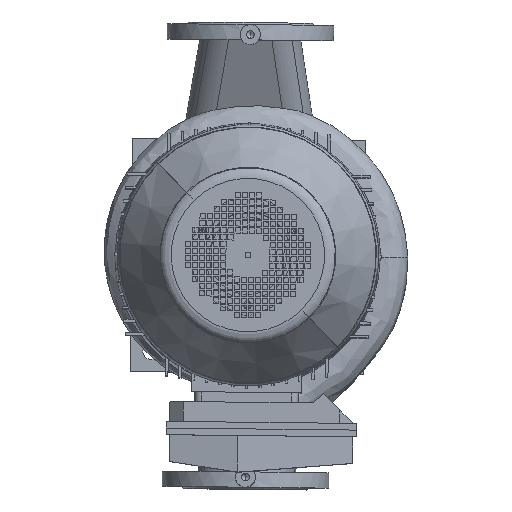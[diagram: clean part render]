
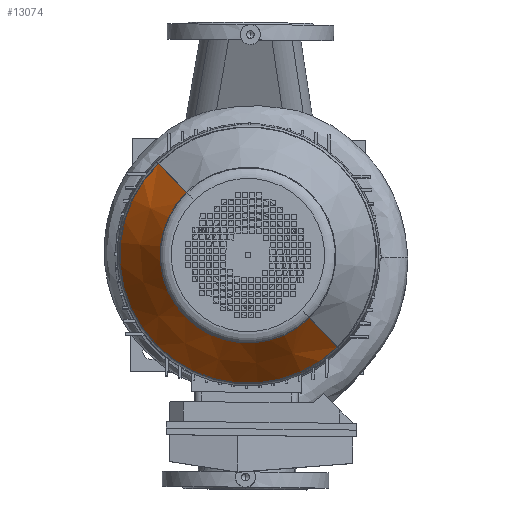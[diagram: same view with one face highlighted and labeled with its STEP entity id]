
A CAD part, top view. The second image highlights one B-rep face of the part: STEP entity #13074.
In plain terms, the highlighted conical face has half-angle 32.471 degrees and reference radius 126 mm.
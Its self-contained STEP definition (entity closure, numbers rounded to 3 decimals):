
#13074=ADVANCED_FACE('',(#29089),#29090,.T.);
#13098=EDGE_CURVE('',#29126,#29125,#29133,.T.);
#13102=EDGE_CURVE('',#29122,#29121,#29139,.T.);
#29089=FACE_OUTER_BOUND('',#52427,.T.);
#29090=CONICAL_SURFACE('',#52428,126.0,0.567);
#29121=VERTEX_POINT('',#52464);
#29122=VERTEX_POINT('',#52465);
#29125=VERTEX_POINT('',#52469);
#29126=VERTEX_POINT('',#52470);
#29133=CIRCLE('',#52479,131.894);
#29139=CIRCLE('',#52487,192.873);
#52427=EDGE_LOOP('',(#85748,#85749,#85750,#85751));
#52428=AXIS2_PLACEMENT_3D('',#85752,#85753,#85754);
#52464=CARTESIAN_POINT('',(192.873,0.,114.913));
#52465=CARTESIAN_POINT('',(-192.873,0.,114.913));
#52469=CARTESIAN_POINT('',(-131.894,0.,210.738));
#52470=CARTESIAN_POINT('',(131.894,0.,210.738));
#52479=AXIS2_PLACEMENT_3D('',#85808,#85809,#85810);
#52487=AXIS2_PLACEMENT_3D('',#85814,#85815,#85816);
#85748=ORIENTED_EDGE('',*,*,#93342,.T.);
#85749=ORIENTED_EDGE('',*,*,#13098,.F.);
#85750=ORIENTED_EDGE('',*,*,#93343,.T.);
#85751=ORIENTED_EDGE('',*,*,#13102,.F.);
#85752=CARTESIAN_POINT('',(0.0,0.0,220.0));
#85753=DIRECTION('',(-0.0,-0.0,-1.0));
#85754=DIRECTION('',(-1.0,0.,0.0));
#85808=CARTESIAN_POINT('',(0.0,0.0,210.738));
#85809=DIRECTION('',(0.0,0.0,1.0));
#85810=DIRECTION('',(1.0,0.,0.0));
#85814=CARTESIAN_POINT('',(0.0,0.0,114.913));
#85815=DIRECTION('',(0.0,0.0,-1.0));
#85816=DIRECTION('',(1.0,0.,0.0));
#93342=EDGE_CURVE('',#29122,#29125,#96419,.T.);
#93343=EDGE_CURVE('',#29126,#29121,#96420,.T.);
#96419=LINE('',#100126,#100127);
#96420=LINE('',#100128,#100129);
#100126=CARTESIAN_POINT('',(-126.0,0.,220.0));
#100127=VECTOR('',#105237,1.0);
#100128=CARTESIAN_POINT('',(126.0,0.,220.0));
#100129=VECTOR('',#105238,1.0);
#105237=DIRECTION('',(0.537,0.,0.844));
#105238=DIRECTION('',(0.537,0.,-0.844));
